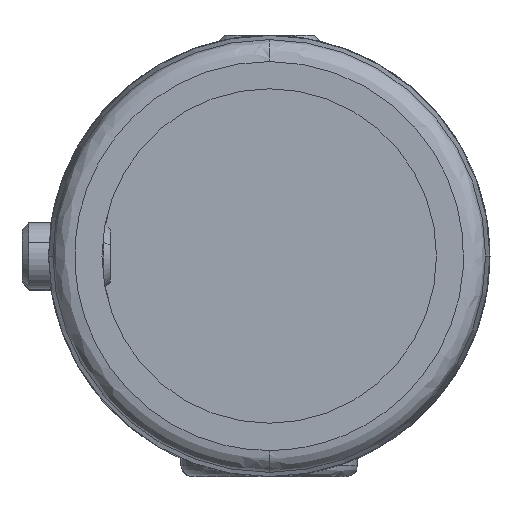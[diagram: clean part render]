
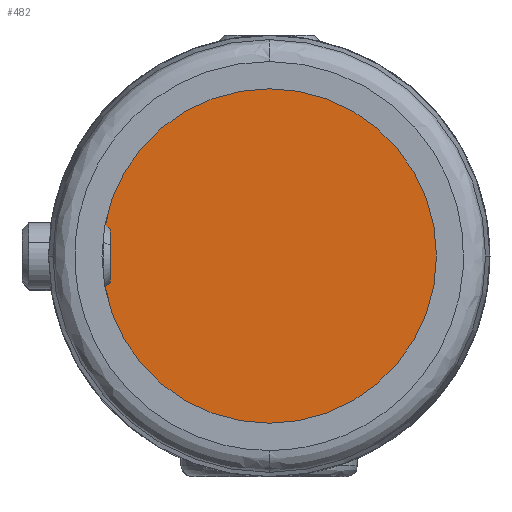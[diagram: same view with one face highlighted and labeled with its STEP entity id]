
A CAD part, left-side view. The second image highlights one B-rep face of the part: STEP entity #482.
In plain terms, the highlighted planar face has unit normal (-1, 0, 0).
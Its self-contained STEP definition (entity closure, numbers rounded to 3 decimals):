
#114 = AXIS2_PLACEMENT_3D ( 'NONE', #4274, #3726, #652 ) ;
#482 = ADVANCED_FACE ( 'NONE', ( #1053 ), #6453, .F. ) ;
#652 = DIRECTION ( 'NONE',  ( 0., 0., -1. ) ) ;
#867 = CARTESIAN_POINT ( 'NONE',  ( 25., 0., 0. ) ) ;
#979 = AXIS2_PLACEMENT_3D ( 'NONE', #2859, #1274, #5370 ) ;
#1053 = FACE_OUTER_BOUND ( 'NONE', #2146, .T. ) ;
#1274 = DIRECTION ( 'NONE',  ( -1., 0., 0. ) ) ;
#2146 = EDGE_LOOP ( 'NONE', ( #6367, #3975 ) ) ;
#2859 = CARTESIAN_POINT ( 'NONE',  ( 25., 0., 0. ) ) ;
#3197 = EDGE_CURVE ( 'NONE', #5957, #3294, #5276, .T. ) ;
#3294 = VERTEX_POINT ( 'NONE', #4398 ) ;
#3306 = EDGE_CURVE ( 'NONE', #3294, #5957, #5648, .T. ) ;
#3726 = DIRECTION ( 'NONE',  ( -1., 0., 0. ) ) ;
#3975 = ORIENTED_EDGE ( 'NONE', *, *, #3306, .T. ) ;
#4274 = CARTESIAN_POINT ( 'NONE',  ( 25., 0., 0. ) ) ;
#4398 = CARTESIAN_POINT ( 'NONE',  ( 25., 0., 15.15 ) ) ;
#4417 = DIRECTION ( 'NONE',  ( 1., 0., 0. ) ) ;
#5276 = CIRCLE ( 'NONE', #114, 15.15 ) ;
#5370 = DIRECTION ( 'NONE',  ( 0., 0., -1. ) ) ;
#5648 = CIRCLE ( 'NONE', #979, 15.15 ) ;
#5722 = CARTESIAN_POINT ( 'NONE',  ( 25., 0., -15.15 ) ) ;
#5957 = VERTEX_POINT ( 'NONE', #5722 ) ;
#6264 = AXIS2_PLACEMENT_3D ( 'NONE', #867, #4417, #6436 ) ;
#6367 = ORIENTED_EDGE ( 'NONE', *, *, #3197, .T. ) ;
#6436 = DIRECTION ( 'NONE',  ( 0., 0., -1. ) ) ;
#6453 = PLANE ( 'NONE',  #6264 ) ;
